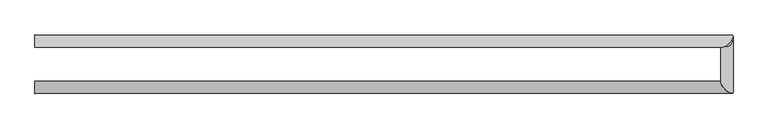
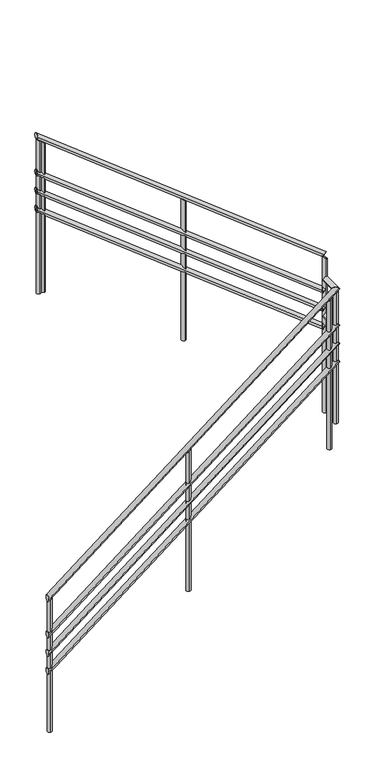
"""IFC4 building model written with IfcOpenShell, lengths in millimetres: railing geometry, r 1100mm 丸パイプ."""

from ifc_helpers import new_model, si_unit, frame, origin, place, context, project, spatial, circle_curve, ellipse_curve, source, transform, mapped, element, save
from ifc_brep_helpers import plane_surface, cylinder_surface, advanced_brep


def railing_baf35b28(model_context):
    return source(origin(), model_context, "Body", "AdvancedBrep", [
        advanced_brep(
        [(-1795.9784025, 14829.6868987, 1982.6086957), (-1795.9784025, 14869.6868987, 1982.6086957), (469.7716975, 14829.6868987, 3755.8044261), (438.2714975, 14869.6868987, 3731.1520956)],
        [
            (0, 1, ellipse_curve(frame((-1795.9784025, 14849.6868987, 1982.6086957), z_axis=(-1.0, 0.0, 0.0), x_axis=(0.0, 0.0, -1.0)), 25.3966641, 20.0)),
            (1, 0, ellipse_curve(frame((-1795.9784025, 14849.6868987, 1982.6086957), z_axis=(-1.0, 0.0, 0.0), x_axis=(0.0, 0.0, -1.0)), 25.3966641, 20.0)),
            (2, 3, ellipse_curve(frame((454.0215975, 14849.6868987, 3743.4782609), z_axis=(0.5568501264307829, 0.7071067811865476, 0.43579575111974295), x_axis=(-0.556850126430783, 0.7071067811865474, -0.4357957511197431)), 28.2842712, 20.0)),
            (3, 2, ellipse_curve(frame((454.0215975, 14849.6868987, 3743.4782609), z_axis=(0.5568501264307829, 0.7071067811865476, 0.43579575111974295), x_axis=(-0.556850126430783, 0.7071067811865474, -0.4357957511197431)), 28.2842712, 20.0)),
            (0, 2),
            (3, 1),
        ],
        [
            plane_surface(frame((-1795.9784025, 14849.6868987, 1982.6086957), z_axis=(-1.0, 0.0, 0.0), x_axis=(0.0, 1.0, 0.0))),
            plane_surface(frame((454.0215975, 14849.6868987, 3743.4782609), z_axis=(0.556850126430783, 0.7071067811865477, 0.43579575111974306), x_axis=(0.8306129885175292, -0.4740504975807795, -0.29216123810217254))),
            cylinder_surface(frame((-1795.9784025, 14849.6868987, 1982.6086957), z_axis=(-0.787505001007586, 0.0, -0.6163082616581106), x_axis=(0.0, 1.0, 0.0)), 20.0),
        ],
        [
            (0, [[1, 2]]),
            (1, [[3, 4]]),
            (2, [[-1, 5, -4, 6]]),
            (2, [[-2, -6, -3, -5]]),
        ],
    ),
        advanced_brep(
        [(474.0215975, 14833.9367987, 3743.4782609), (434.0215975, 14865.4369987, 3743.4782609), (474.0215975, 15015.4369987, 3743.4782609), (434.0215975, 14983.9367987, 3743.4782609)],
        [
            (0, 1, ellipse_curve(frame((454.0215975, 14849.6868987, 3743.4782609), z_axis=(-0.5568501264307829, -0.7071067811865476, -0.43579575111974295), x_axis=(0.556850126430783, -0.7071067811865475, 0.43579575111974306)), 28.2842712, 20.0)),
            (1, 0, ellipse_curve(frame((454.0215975, 14849.6868987, 3743.4782609), z_axis=(-0.5568501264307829, -0.7071067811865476, -0.43579575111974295), x_axis=(0.556850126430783, -0.7071067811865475, 0.43579575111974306)), 28.2842712, 20.0)),
            (2, 3, ellipse_curve(frame((454.0215975, 14999.6868987, 3743.4782609), z_axis=(-0.5568501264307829, 0.7071067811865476, 0.4357957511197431), x_axis=(-0.556850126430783, -0.7071067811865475, 0.43579575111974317)), 28.2842712, 20.0)),
            (3, 2, ellipse_curve(frame((454.0215975, 14999.6868987, 3743.4782609), z_axis=(-0.5568501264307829, 0.7071067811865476, 0.4357957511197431), x_axis=(-0.556850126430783, -0.7071067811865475, 0.43579575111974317)), 28.2842712, 20.0)),
            (0, 2),
            (3, 1),
        ],
        [
            plane_surface(frame((454.0215975, 14849.6868987, 3743.4782609), z_axis=(-0.556850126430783, -0.7071067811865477, -0.43579575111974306), x_axis=(0.8306129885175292, -0.4740504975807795, -0.29216123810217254))),
            plane_surface(frame((454.0215975, 14999.6868987, 3743.4782609), z_axis=(-0.5568501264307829, 0.7071067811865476, 0.4357957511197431), x_axis=(0.8306129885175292, 0.4740504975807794, 0.29216123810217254))),
            cylinder_surface(frame((454.0215975, 14849.6868987, 3743.4782609), z_axis=(0.0, -1.0, 0.0), x_axis=(-1.0, 0.0, 0.0)), 20.0),
        ],
        [
            (0, [[1, 2]]),
            (1, [[3, 4]]),
            (2, [[-1, 5, -4, 6]]),
            (2, [[-2, -6, -3, -5]]),
        ],
    ),
        advanced_brep(
        [(469.7716975, 15019.6868987, 3926.8042695), (438.2714975, 14979.6868987, 3951.4566), (-1795.9784025, 15019.6868987, 5700.0), (-1795.9784025, 14979.6868987, 5700.0)],
        [
            (0, 1, ellipse_curve(frame((454.0215975, 14999.6868987, 3939.1304348), z_axis=(0.5568501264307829, -0.7071067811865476, -0.4357957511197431), x_axis=(0.5568501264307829, 0.7071067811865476, -0.4357957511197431)), 28.2842712, 20.0)),
            (1, 0, ellipse_curve(frame((454.0215975, 14999.6868987, 3939.1304348), z_axis=(0.5568501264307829, -0.7071067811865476, -0.4357957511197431), x_axis=(0.5568501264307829, 0.7071067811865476, -0.4357957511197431)), 28.2842712, 20.0)),
            (2, 3, ellipse_curve(frame((-1795.9784025, 14999.6868987, 5700.0), z_axis=(-1.0, 0.0, 0.0), x_axis=(0.0, 0.0, -1.0)), 25.3966641, 20.0)),
            (3, 2, ellipse_curve(frame((-1795.9784025, 14999.6868987, 5700.0), z_axis=(-1.0, 0.0, 0.0), x_axis=(0.0, 0.0, -1.0)), 25.3966641, 20.0)),
            (0, 2),
            (3, 1),
        ],
        [
            plane_surface(frame((454.0215975, 14999.6868987, 3939.1304348), z_axis=(0.5568501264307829, -0.7071067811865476, -0.4357957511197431), x_axis=(0.8306129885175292, 0.4740504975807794, 0.29216123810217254))),
            plane_surface(frame((-1795.9784025, 14999.6868987, 5700.0), z_axis=(-1.0, 0.0, 0.0), x_axis=(0.0, -1.0, 0.0))),
            cylinder_surface(frame((454.0215975, 14999.6868987, 3939.1304348), z_axis=(0.7875050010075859, 0.0, -0.6163082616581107), x_axis=(0.0, -1.0, 0.0)), 20.0),
        ],
        [
            (0, [[1, 2]]),
            (1, [[3, 4]]),
            (2, [[-1, 5, -4, 6]]),
            (2, [[-2, -6, -3, -5]]),
        ],
    ),
        advanced_brep(
        [(-1795.9784025, 14829.6868987, 1682.6086957), (-1795.9784025, 14869.6868987, 1682.6086957), (469.7716975, 14829.6868987, 3455.8044261), (438.2714975, 14869.6868987, 3431.1520956)],
        [
            (0, 1, ellipse_curve(frame((-1795.9784025, 14849.6868987, 1682.6086957), z_axis=(-1.0, 0.0, 0.0), x_axis=(0.0, 0.0, -1.0)), 25.3966641, 20.0)),
            (1, 0, ellipse_curve(frame((-1795.9784025, 14849.6868987, 1682.6086957), z_axis=(-1.0, 0.0, 0.0), x_axis=(0.0, 0.0, -1.0)), 25.3966641, 20.0)),
            (2, 3, ellipse_curve(frame((454.0215975, 14849.6868987, 3443.4782609), z_axis=(0.5568501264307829, 0.7071067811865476, 0.43579575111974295), x_axis=(-0.556850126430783, 0.7071067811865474, -0.4357957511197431)), 28.2842712, 20.0)),
            (3, 2, ellipse_curve(frame((454.0215975, 14849.6868987, 3443.4782609), z_axis=(0.5568501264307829, 0.7071067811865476, 0.43579575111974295), x_axis=(-0.556850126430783, 0.7071067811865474, -0.4357957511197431)), 28.2842712, 20.0)),
            (0, 2),
            (3, 1),
        ],
        [
            plane_surface(frame((-1795.9784025, 14849.6868987, 1682.6086957), z_axis=(-1.0, 0.0, 0.0), x_axis=(0.0, 1.0, 0.0))),
            plane_surface(frame((454.0215975, 14849.6868987, 3443.4782609), z_axis=(0.556850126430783, 0.7071067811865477, 0.43579575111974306), x_axis=(0.8306129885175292, -0.4740504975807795, -0.29216123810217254))),
            cylinder_surface(frame((-1795.9784025, 14849.6868987, 1682.6086957), z_axis=(-0.787505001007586, 0.0, -0.6163082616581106), x_axis=(0.0, 1.0, 0.0)), 20.0),
        ],
        [
            (0, [[1, 2]]),
            (1, [[3, 4]]),
            (2, [[-1, 5, -4, 6]]),
            (2, [[-2, -6, -3, -5]]),
        ],
    ),
        advanced_brep(
        [(474.0215975, 14833.9367987, 3443.4782609), (434.0215975, 14865.4369987, 3443.4782609), (474.0215975, 15015.4369987, 3443.4782609), (434.0215975, 14983.9367987, 3443.4782609)],
        [
            (0, 1, ellipse_curve(frame((454.0215975, 14849.6868987, 3443.4782609), z_axis=(-0.5568501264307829, -0.7071067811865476, -0.43579575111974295), x_axis=(0.556850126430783, -0.7071067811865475, 0.43579575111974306)), 28.2842712, 20.0)),
            (1, 0, ellipse_curve(frame((454.0215975, 14849.6868987, 3443.4782609), z_axis=(-0.5568501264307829, -0.7071067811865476, -0.43579575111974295), x_axis=(0.556850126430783, -0.7071067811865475, 0.43579575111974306)), 28.2842712, 20.0)),
            (2, 3, ellipse_curve(frame((454.0215975, 14999.6868987, 3443.4782609), z_axis=(-0.5568501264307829, 0.7071067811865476, 0.4357957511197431), x_axis=(-0.556850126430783, -0.7071067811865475, 0.43579575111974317)), 28.2842712, 20.0)),
            (3, 2, ellipse_curve(frame((454.0215975, 14999.6868987, 3443.4782609), z_axis=(-0.5568501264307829, 0.7071067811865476, 0.4357957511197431), x_axis=(-0.556850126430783, -0.7071067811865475, 0.43579575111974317)), 28.2842712, 20.0)),
            (0, 2),
            (3, 1),
        ],
        [
            plane_surface(frame((454.0215975, 14849.6868987, 3443.4782609), z_axis=(-0.556850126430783, -0.7071067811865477, -0.43579575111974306), x_axis=(0.8306129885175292, -0.4740504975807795, -0.29216123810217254))),
            plane_surface(frame((454.0215975, 14999.6868987, 3443.4782609), z_axis=(-0.5568501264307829, 0.7071067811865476, 0.4357957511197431), x_axis=(0.8306129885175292, 0.4740504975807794, 0.29216123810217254))),
            cylinder_surface(frame((454.0215975, 14849.6868987, 3443.4782609), z_axis=(0.0, -1.0, 0.0), x_axis=(-1.0, 0.0, 0.0)), 20.0),
        ],
        [
            (0, [[1, 2]]),
            (1, [[3, 4]]),
            (2, [[-1, 5, -4, 6]]),
            (2, [[-2, -6, -3, -5]]),
        ],
    ),
        advanced_brep(
        [(469.7716975, 15019.6868987, 3626.8042695), (438.2714975, 14979.6868987, 3651.4566), (-1795.9784025, 15019.6868987, 5400.0), (-1795.9784025, 14979.6868987, 5400.0)],
        [
            (0, 1, ellipse_curve(frame((454.0215975, 14999.6868987, 3639.1304348), z_axis=(0.5568501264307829, -0.7071067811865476, -0.4357957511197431), x_axis=(0.5568501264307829, 0.7071067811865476, -0.4357957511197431)), 28.2842712, 20.0)),
            (1, 0, ellipse_curve(frame((454.0215975, 14999.6868987, 3639.1304348), z_axis=(0.5568501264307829, -0.7071067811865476, -0.4357957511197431), x_axis=(0.5568501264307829, 0.7071067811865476, -0.4357957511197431)), 28.2842712, 20.0)),
            (2, 3, ellipse_curve(frame((-1795.9784025, 14999.6868987, 5400.0), z_axis=(-1.0, 0.0, 0.0), x_axis=(0.0, 0.0, -1.0)), 25.3966641, 20.0)),
            (3, 2, ellipse_curve(frame((-1795.9784025, 14999.6868987, 5400.0), z_axis=(-1.0, 0.0, 0.0), x_axis=(0.0, 0.0, -1.0)), 25.3966641, 20.0)),
            (0, 2),
            (3, 1),
        ],
        [
            plane_surface(frame((454.0215975, 14999.6868987, 3639.1304348), z_axis=(0.5568501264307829, -0.7071067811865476, -0.4357957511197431), x_axis=(0.8306129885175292, 0.4740504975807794, 0.29216123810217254))),
            plane_surface(frame((-1795.9784025, 14999.6868987, 5400.0), z_axis=(-1.0, 0.0, 0.0), x_axis=(0.0, -1.0, 0.0))),
            cylinder_surface(frame((454.0215975, 14999.6868987, 3639.1304348), z_axis=(0.7875050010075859, 0.0, -0.6163082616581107), x_axis=(0.0, -1.0, 0.0)), 20.0),
        ],
        [
            (0, [[1, 2]]),
            (1, [[3, 4]]),
            (2, [[-1, 5, -4, 6]]),
            (2, [[-2, -6, -3, -5]]),
        ],
    ),
        advanced_brep(
        [(-1795.9784025, 14829.6868987, 1532.6086957), (-1795.9784025, 14869.6868987, 1532.6086957), (469.7716975, 14829.6868987, 3305.8044261), (438.2714975, 14869.6868987, 3281.1520956)],
        [
            (0, 1, ellipse_curve(frame((-1795.9784025, 14849.6868987, 1532.6086957), z_axis=(-1.0, 0.0, 0.0), x_axis=(0.0, 0.0, -1.0)), 25.3966641, 20.0)),
            (1, 0, ellipse_curve(frame((-1795.9784025, 14849.6868987, 1532.6086957), z_axis=(-1.0, 0.0, 0.0), x_axis=(0.0, 0.0, -1.0)), 25.3966641, 20.0)),
            (2, 3, ellipse_curve(frame((454.0215975, 14849.6868987, 3293.4782609), z_axis=(0.5568501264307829, 0.7071067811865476, 0.43579575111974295), x_axis=(-0.556850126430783, 0.7071067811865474, -0.4357957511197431)), 28.2842712, 20.0)),
            (3, 2, ellipse_curve(frame((454.0215975, 14849.6868987, 3293.4782609), z_axis=(0.5568501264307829, 0.7071067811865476, 0.43579575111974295), x_axis=(-0.556850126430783, 0.7071067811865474, -0.4357957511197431)), 28.2842712, 20.0)),
            (0, 2),
            (3, 1),
        ],
        [
            plane_surface(frame((-1795.9784025, 14849.6868987, 1532.6086957), z_axis=(-1.0, 0.0, 0.0), x_axis=(0.0, 1.0, 0.0))),
            plane_surface(frame((454.0215975, 14849.6868987, 3293.4782609), z_axis=(0.556850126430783, 0.7071067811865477, 0.43579575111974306), x_axis=(0.8306129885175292, -0.4740504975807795, -0.29216123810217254))),
            cylinder_surface(frame((-1795.9784025, 14849.6868987, 1532.6086957), z_axis=(-0.787505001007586, 0.0, -0.6163082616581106), x_axis=(0.0, 1.0, 0.0)), 20.0),
        ],
        [
            (0, [[1, 2]]),
            (1, [[3, 4]]),
            (2, [[-1, 5, -4, 6]]),
            (2, [[-2, -6, -3, -5]]),
        ],
    ),
        advanced_brep(
        [(474.0215975, 14833.9367987, 3293.4782609), (434.0215975, 14865.4369987, 3293.4782609), (474.0215975, 15015.4369987, 3293.4782609), (434.0215975, 14983.9367987, 3293.4782609)],
        [
            (0, 1, ellipse_curve(frame((454.0215975, 14849.6868987, 3293.4782609), z_axis=(-0.5568501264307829, -0.7071067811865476, -0.43579575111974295), x_axis=(0.556850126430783, -0.7071067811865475, 0.43579575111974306)), 28.2842712, 20.0)),
            (1, 0, ellipse_curve(frame((454.0215975, 14849.6868987, 3293.4782609), z_axis=(-0.5568501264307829, -0.7071067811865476, -0.43579575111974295), x_axis=(0.556850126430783, -0.7071067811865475, 0.43579575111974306)), 28.2842712, 20.0)),
            (2, 3, ellipse_curve(frame((454.0215975, 14999.6868987, 3293.4782609), z_axis=(-0.5568501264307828, 0.7071067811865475, 0.43579575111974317), x_axis=(-0.5568501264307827, -0.7071067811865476, 0.4357957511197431)), 28.2842712, 20.0)),
            (3, 2, ellipse_curve(frame((454.0215975, 14999.6868987, 3293.4782609), z_axis=(-0.5568501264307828, 0.7071067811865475, 0.43579575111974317), x_axis=(-0.5568501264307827, -0.7071067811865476, 0.4357957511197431)), 28.2842712, 20.0)),
            (0, 2),
            (3, 1),
        ],
        [
            plane_surface(frame((454.0215975, 14849.6868987, 3293.4782609), z_axis=(-0.556850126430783, -0.7071067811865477, -0.43579575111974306), x_axis=(0.8306129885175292, -0.4740504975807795, -0.29216123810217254))),
            plane_surface(frame((454.0215975, 14999.6868987, 3293.4782609), z_axis=(-0.5568501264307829, 0.7071067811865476, 0.4357957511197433), x_axis=(0.8306129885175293, 0.47405049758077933, 0.2921612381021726))),
            cylinder_surface(frame((454.0215975, 14849.6868987, 3293.4782609), z_axis=(0.0, -1.0, 0.0), x_axis=(-1.0, 0.0, 0.0)), 20.0),
        ],
        [
            (0, [[1, 2]]),
            (1, [[3, 4]]),
            (2, [[-1, 5, -4, 6]]),
            (2, [[-2, -6, -3, -5]]),
        ],
    ),
        advanced_brep(
        [(469.7716975, 15019.6868987, 3476.8042695), (438.2714975, 14979.6868987, 3501.4566), (-1795.9784025, 15019.6868987, 5250.0), (-1795.9784025, 14979.6868987, 5250.0)],
        [
            (0, 1, ellipse_curve(frame((454.0215975, 14999.6868987, 3489.1304348), z_axis=(0.5568501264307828, -0.7071067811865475, -0.43579575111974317), x_axis=(0.556850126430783, 0.7071067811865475, -0.43579575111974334)), 28.2842712, 20.0)),
            (1, 0, ellipse_curve(frame((454.0215975, 14999.6868987, 3489.1304348), z_axis=(0.5568501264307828, -0.7071067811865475, -0.43579575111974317), x_axis=(0.556850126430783, 0.7071067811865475, -0.43579575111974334)), 28.2842712, 20.0)),
            (2, 3, ellipse_curve(frame((-1795.9784025, 14999.6868987, 5250.0), z_axis=(-1.0, 0.0, 0.0), x_axis=(0.0, 0.0, -1.0)), 25.3966641, 20.0)),
            (3, 2, ellipse_curve(frame((-1795.9784025, 14999.6868987, 5250.0), z_axis=(-1.0, 0.0, 0.0), x_axis=(0.0, 0.0, -1.0)), 25.3966641, 20.0)),
            (0, 2),
            (3, 1),
        ],
        [
            plane_surface(frame((454.0215975, 14999.6868987, 3489.1304348), z_axis=(0.5568501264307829, -0.7071067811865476, -0.4357957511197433), x_axis=(0.8306129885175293, 0.47405049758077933, 0.2921612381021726))),
            plane_surface(frame((-1795.9784025, 14999.6868987, 5250.0), z_axis=(-1.0, 0.0, 0.0), x_axis=(0.0, -1.0, 0.0))),
            cylinder_surface(frame((454.0215975, 14999.6868987, 3489.1304348), z_axis=(0.7875050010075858, 0.0, -0.6163082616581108), x_axis=(0.0, -1.0, 0.0)), 20.0),
        ],
        [
            (0, [[1, 2]]),
            (1, [[3, 4]]),
            (2, [[-1, 5, -4, 6]]),
            (2, [[-2, -6, -3, -5]]),
        ],
    ),
        advanced_brep(
        [(-1795.9784025, 14829.6868987, 1382.6086957), (-1795.9784025, 14869.6868987, 1382.6086957), (469.7716975, 14829.6868987, 3155.8044261), (438.2714975, 14869.6868987, 3131.1520956)],
        [
            (0, 1, ellipse_curve(frame((-1795.9784025, 14849.6868987, 1382.6086957), z_axis=(-1.0, 0.0, 0.0), x_axis=(0.0, 0.0, -1.0)), 25.3966641, 20.0)),
            (1, 0, ellipse_curve(frame((-1795.9784025, 14849.6868987, 1382.6086957), z_axis=(-1.0, 0.0, 0.0), x_axis=(0.0, 0.0, -1.0)), 25.3966641, 20.0)),
            (2, 3, ellipse_curve(frame((454.0215975, 14849.6868987, 3143.4782609), z_axis=(0.5568501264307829, 0.7071067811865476, 0.43579575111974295), x_axis=(-0.556850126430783, 0.7071067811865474, -0.4357957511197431)), 28.2842712, 20.0)),
            (3, 2, ellipse_curve(frame((454.0215975, 14849.6868987, 3143.4782609), z_axis=(0.5568501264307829, 0.7071067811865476, 0.43579575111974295), x_axis=(-0.556850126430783, 0.7071067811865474, -0.4357957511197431)), 28.2842712, 20.0)),
            (0, 2),
            (3, 1),
        ],
        [
            plane_surface(frame((-1795.9784025, 14849.6868987, 1382.6086957), z_axis=(-1.0, 0.0, 0.0), x_axis=(0.0, 1.0, 0.0))),
            plane_surface(frame((454.0215975, 14849.6868987, 3143.4782609), z_axis=(0.556850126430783, 0.7071067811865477, 0.43579575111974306), x_axis=(0.8306129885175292, -0.4740504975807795, -0.29216123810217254))),
            cylinder_surface(frame((-1795.9784025, 14849.6868987, 1382.6086957), z_axis=(-0.787505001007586, 0.0, -0.6163082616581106), x_axis=(0.0, 1.0, 0.0)), 20.0),
        ],
        [
            (0, [[1, 2]]),
            (1, [[3, 4]]),
            (2, [[-1, 5, -4, 6]]),
            (2, [[-2, -6, -3, -5]]),
        ],
    ),
        advanced_brep(
        [(474.0215975, 14833.9367987, 3143.4782609), (434.0215975, 14865.4369987, 3143.4782609), (474.0215975, 15015.4369987, 3143.4782609), (434.0215975, 14983.9367987, 3143.4782609)],
        [
            (0, 1, ellipse_curve(frame((454.0215975, 14849.6868987, 3143.4782609), z_axis=(-0.5568501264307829, -0.7071067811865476, -0.43579575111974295), x_axis=(0.556850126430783, -0.7071067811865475, 0.43579575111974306)), 28.2842712, 20.0)),
            (1, 0, ellipse_curve(frame((454.0215975, 14849.6868987, 3143.4782609), z_axis=(-0.5568501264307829, -0.7071067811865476, -0.43579575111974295), x_axis=(0.556850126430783, -0.7071067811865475, 0.43579575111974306)), 28.2842712, 20.0)),
            (2, 3, ellipse_curve(frame((454.0215975, 14999.6868987, 3143.4782609), z_axis=(-0.5568501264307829, 0.7071067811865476, 0.4357957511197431), x_axis=(-0.556850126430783, -0.7071067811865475, 0.43579575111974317)), 28.2842712, 20.0)),
            (3, 2, ellipse_curve(frame((454.0215975, 14999.6868987, 3143.4782609), z_axis=(-0.5568501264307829, 0.7071067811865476, 0.4357957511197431), x_axis=(-0.556850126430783, -0.7071067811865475, 0.43579575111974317)), 28.2842712, 20.0)),
            (0, 2),
            (3, 1),
        ],
        [
            plane_surface(frame((454.0215975, 14849.6868987, 3143.4782609), z_axis=(-0.556850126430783, -0.7071067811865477, -0.43579575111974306), x_axis=(0.8306129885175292, -0.4740504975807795, -0.29216123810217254))),
            plane_surface(frame((454.0215975, 14999.6868987, 3143.4782609), z_axis=(-0.5568501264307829, 0.7071067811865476, 0.4357957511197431), x_axis=(0.8306129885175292, 0.4740504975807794, 0.29216123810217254))),
            cylinder_surface(frame((454.0215975, 14849.6868987, 3143.4782609), z_axis=(0.0, -1.0, 0.0), x_axis=(-1.0, 0.0, 0.0)), 20.0),
        ],
        [
            (0, [[1, 2]]),
            (1, [[3, 4]]),
            (2, [[-1, 5, -4, 6]]),
            (2, [[-2, -6, -3, -5]]),
        ],
    ),
        advanced_brep(
        [(469.7716975, 15019.6868987, 3326.8042695), (438.2714975, 14979.6868987, 3351.4566), (-1795.9784025, 15019.6868987, 5100.0), (-1795.9784025, 14979.6868987, 5100.0)],
        [
            (0, 1, ellipse_curve(frame((454.0215975, 14999.6868987, 3339.1304348), z_axis=(0.5568501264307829, -0.7071067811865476, -0.4357957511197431), x_axis=(0.5568501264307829, 0.7071067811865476, -0.4357957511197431)), 28.2842712, 20.0)),
            (1, 0, ellipse_curve(frame((454.0215975, 14999.6868987, 3339.1304348), z_axis=(0.5568501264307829, -0.7071067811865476, -0.4357957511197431), x_axis=(0.5568501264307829, 0.7071067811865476, -0.4357957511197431)), 28.2842712, 20.0)),
            (2, 3, ellipse_curve(frame((-1795.9784025, 14999.6868987, 5100.0), z_axis=(-1.0, 0.0, 0.0), x_axis=(0.0, 0.0, -1.0)), 25.3966641, 20.0)),
            (3, 2, ellipse_curve(frame((-1795.9784025, 14999.6868987, 5100.0), z_axis=(-1.0, 0.0, 0.0), x_axis=(0.0, 0.0, -1.0)), 25.3966641, 20.0)),
            (0, 2),
            (3, 1),
        ],
        [
            plane_surface(frame((454.0215975, 14999.6868987, 3339.1304348), z_axis=(0.5568501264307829, -0.7071067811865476, -0.4357957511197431), x_axis=(0.8306129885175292, 0.4740504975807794, 0.29216123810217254))),
            plane_surface(frame((-1795.9784025, 14999.6868987, 5100.0), z_axis=(-1.0, 0.0, 0.0), x_axis=(0.0, -1.0, 0.0))),
            cylinder_surface(frame((454.0215975, 14999.6868987, 3339.1304348), z_axis=(0.7875050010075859, 0.0, -0.6163082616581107), x_axis=(0.0, -1.0, 0.0)), 20.0),
        ],
        [
            (0, [[1, 2]]),
            (1, [[3, 4]]),
            (2, [[-1, 5, -4, 6]]),
            (2, [[-2, -6, -3, -5]]),
        ],
    ),
        advanced_brep(
        [(-1745.9784025, 14982.6868987, 5635.4729011), (-1745.9784025, 15016.6868987, 5635.4729011), (-1745.9784025, 15016.6868987, 4404.3478261), (-1745.9784025, 14982.6868987, 4404.3478261)],
        [
            (0, 1, ellipse_curve(frame((-1745.9784025, 14999.6868987, 5635.4729011), z_axis=(-0.6163082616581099, 0.0, -0.7875050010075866), x_axis=(-0.7875050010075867, 0.0, 0.6163082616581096)), 21.5871645, 17.0)),
            (1, 2),
            (2, 3, circle_curve(frame((-1745.9784025, 14999.6868987, 4404.3478261), z_axis=(0.0, 0.0, 1.0), x_axis=(0.0, 1.0, 0.0)), 17.0)),
            (3, 0),
            (3, 2, circle_curve(frame((-1745.9784025, 14999.6868987, 4404.3478261), z_axis=(0.0, 0.0, 1.0), x_axis=(0.0, 1.0, 0.0)), 17.0)),
            (1, 0, ellipse_curve(frame((-1745.9784025, 14999.6868987, 5635.4729011), z_axis=(-0.6163082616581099, 0.0, -0.7875050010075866), x_axis=(-0.7875050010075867, 0.0, 0.6163082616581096)), 21.5871645, 17.0)),
        ],
        [
            cylinder_surface(frame((-1745.9784025, 14999.6868987, 4304.3478261), z_axis=(0.0, 0.0, 1.0), x_axis=(0.0, 1.0, 0.0)), 17.0),
            plane_surface(frame((-1779.9784025, 15033.6868987, 5662.0815968), z_axis=(0.6163082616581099, 0.0, 0.7875050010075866), x_axis=(0.0, -1.0, 0.0))),
            plane_surface(frame((-1711.9784025, 15033.6868987, 4404.3478261), z_axis=(0.0, 0.0, -1.0), x_axis=(0.0, -1.0, 0.0))),
        ],
        [
            (0, [[1, 2, 3, 4]]),
            (0, [[5, -2, 6, -4]]),
            (1, [[-6, -1]]),
            (2, [[-5, -3]]),
        ],
    ),
        advanced_brep(
        [(-645.9784025, 14982.6868987, 4774.6033359), (-645.9784025, 15016.6868987, 4774.6033359), (-645.9784025, 15016.6868987, 3621.7391304), (-645.9784025, 14982.6868987, 3621.7391304)],
        [
            (0, 1, ellipse_curve(frame((-645.9784025, 14999.6868987, 4774.6033359), z_axis=(-0.6163082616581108, 0.0, -0.7875050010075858), x_axis=(-0.7875050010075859, 0.0, 0.6163082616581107)), 21.5871645, 17.0)),
            (1, 2),
            (2, 3, circle_curve(frame((-645.9784025, 14999.6868987, 3621.7391304), z_axis=(0.0, 0.0, 1.0), x_axis=(0.0, 1.0, 0.0)), 17.0)),
            (3, 0),
            (3, 2, circle_curve(frame((-645.9784025, 14999.6868987, 3621.7391304), z_axis=(0.0, 0.0, 1.0), x_axis=(0.0, 1.0, 0.0)), 17.0)),
            (1, 0, ellipse_curve(frame((-645.9784025, 14999.6868987, 4774.6033359), z_axis=(-0.6163082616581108, 0.0, -0.7875050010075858), x_axis=(-0.7875050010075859, 0.0, 0.6163082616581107)), 21.5871645, 17.0)),
        ],
        [
            cylinder_surface(frame((-645.9784025, 14999.6868987, 3521.7391304), z_axis=(0.0, 0.0, 1.0), x_axis=(0.0, 1.0, 0.0)), 17.0),
            plane_surface(frame((-679.9784025, 15033.6868987, 4801.2120315), z_axis=(0.6163082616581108, 0.0, 0.7875050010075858), x_axis=(0.0, -1.0, 0.0))),
            plane_surface(frame((-611.9784025, 15033.6868987, 3621.7391304), z_axis=(0.0, 0.0, -1.0), x_axis=(0.0, -1.0, 0.0))),
        ],
        [
            (0, [[1, 2, 3, 4]]),
            (0, [[5, -2, 6, -4]]),
            (1, [[-6, -1]]),
            (2, [[-5, -3]]),
        ],
    ),
        advanced_brep(
        [(404.0215975, 14866.6868987, 3678.951162), (404.0215975, 14832.6868987, 3678.951162), (404.0215975, 14832.6868987, 2447.826087), (404.0215975, 14866.6868987, 2447.826087)],
        [
            (0, 1, ellipse_curve(frame((404.0215975, 14849.6868987, 3678.951162), z_axis=(0.6163082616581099, 0.0, -0.7875050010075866), x_axis=(0.7875050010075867, 0.0, 0.6163082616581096)), 21.5871645, 17.0)),
            (1, 2),
            (2, 3, circle_curve(frame((404.0215975, 14849.6868987, 2447.826087), z_axis=(0.0, 0.0, 1.0), x_axis=(0.0, -1.0, 0.0)), 17.0)),
            (3, 0),
            (3, 2, circle_curve(frame((404.0215975, 14849.6868987, 2447.826087), z_axis=(0.0, 0.0, 1.0), x_axis=(0.0, -1.0, 0.0)), 17.0)),
            (1, 0, ellipse_curve(frame((404.0215975, 14849.6868987, 3678.951162), z_axis=(0.6163082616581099, 0.0, -0.7875050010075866), x_axis=(0.7875050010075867, 0.0, 0.6163082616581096)), 21.5871645, 17.0)),
        ],
        [
            cylinder_surface(frame((404.0215975, 14849.6868987, 2347.826087), z_axis=(0.0, 0.0, 1.0), x_axis=(0.0, -1.0, 0.0)), 17.0),
            plane_surface(frame((438.0215975, 14815.6868987, 3705.5598576), z_axis=(-0.6163082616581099, 0.0, 0.7875050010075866), x_axis=(0.0, 1.0, 0.0))),
            plane_surface(frame((370.0215975, 14815.6868987, 2447.826087), z_axis=(0.0, 0.0, -1.0), x_axis=(0.0, 1.0, 0.0))),
        ],
        [
            (0, [[1, 2, 3, 4]]),
            (0, [[5, -2, 6, -4]]),
            (1, [[-6, -1]]),
            (2, [[-5, -3]]),
        ],
    ),
        advanced_brep(
        [(-695.9784025, 14866.6868987, 2818.0815968), (-695.9784025, 14832.6868987, 2818.0815968), (-695.9784025, 14832.6868987, 1665.2173913), (-695.9784025, 14866.6868987, 1665.2173913)],
        [
            (0, 1, ellipse_curve(frame((-695.9784025, 14849.6868987, 2818.0815968), z_axis=(0.6163082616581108, 0.0, -0.7875050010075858), x_axis=(0.7875050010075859, 0.0, 0.6163082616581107)), 21.5871645, 17.0)),
            (1, 2),
            (2, 3, circle_curve(frame((-695.9784025, 14849.6868987, 1665.2173913), z_axis=(0.0, 0.0, 1.0), x_axis=(0.0, -1.0, 0.0)), 17.0)),
            (3, 0),
            (3, 2, circle_curve(frame((-695.9784025, 14849.6868987, 1665.2173913), z_axis=(0.0, 0.0, 1.0), x_axis=(0.0, -1.0, 0.0)), 17.0)),
            (1, 0, ellipse_curve(frame((-695.9784025, 14849.6868987, 2818.0815968), z_axis=(0.6163082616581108, 0.0, -0.7875050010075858), x_axis=(0.7875050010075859, 0.0, 0.6163082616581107)), 21.5871645, 17.0)),
        ],
        [
            cylinder_surface(frame((-695.9784025, 14849.6868987, 1565.2173913), z_axis=(0.0, 0.0, 1.0), x_axis=(0.0, -1.0, 0.0)), 17.0),
            plane_surface(frame((-661.9784025, 14815.6868987, 2844.6902924), z_axis=(-0.6163082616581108, 0.0, 0.7875050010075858), x_axis=(0.0, 1.0, 0.0))),
            plane_surface(frame((-729.9784025, 14815.6868987, 1665.2173913), z_axis=(0.0, 0.0, -1.0), x_axis=(0.0, 1.0, 0.0))),
        ],
        [
            (0, [[1, 2, 3, 4]]),
            (0, [[5, -2, 6, -4]]),
            (1, [[-6, -1]]),
            (2, [[-5, -3]]),
        ],
    ),
        advanced_brep(
        [(454.0215975, 14982.6868987, 3913.7337707), (454.0215975, 15016.6868987, 3913.7337707), (454.0215975, 15016.6868987, 2643.4782609), (454.0215975, 14982.6868987, 2643.4782609)],
        [
            (0, 1, ellipse_curve(frame((454.0215975, 14999.6868987, 3913.7337707), z_axis=(-0.6163082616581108, 0.0, -0.7875050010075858), x_axis=(-0.7875050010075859, 0.0, 0.6163082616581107)), 21.5871645, 17.0)),
            (1, 2),
            (2, 3, circle_curve(frame((454.0215975, 14999.6868987, 2643.4782609), z_axis=(0.0, 0.0, 1.0), x_axis=(0.0, 1.0, 0.0)), 17.0)),
            (3, 0),
            (3, 2, circle_curve(frame((454.0215975, 14999.6868987, 2643.4782609), z_axis=(0.0, 0.0, 1.0), x_axis=(0.0, 1.0, 0.0)), 17.0)),
            (1, 0, ellipse_curve(frame((454.0215975, 14999.6868987, 3913.7337707), z_axis=(-0.6163082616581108, 0.0, -0.7875050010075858), x_axis=(-0.7875050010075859, 0.0, 0.6163082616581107)), 21.5871645, 17.0)),
        ],
        [
            cylinder_surface(frame((454.0215975, 14999.6868987, 2543.4782609), z_axis=(0.0, 0.0, 1.0), x_axis=(0.0, 1.0, 0.0)), 17.0),
            plane_surface(frame((420.0215975, 15033.6868987, 3940.3424663), z_axis=(0.6163082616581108, 0.0, 0.7875050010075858), x_axis=(0.0, -1.0, 0.0))),
            plane_surface(frame((488.0215975, 15033.6868987, 2643.4782609), z_axis=(0.0, 0.0, -1.0), x_axis=(0.0, -1.0, 0.0))),
        ],
        [
            (0, [[1, 2, 3, 4]]),
            (0, [[5, -2, 6, -4]]),
            (1, [[-6, -1]]),
            (2, [[-5, -3]]),
        ],
    ),
        advanced_brep(
        [(454.0215975, 14866.6868987, 3718.0815968), (454.0215975, 14832.6868987, 3718.0815968), (454.0215975, 14832.6868987, 2643.4782609), (454.0215975, 14866.6868987, 2643.4782609)],
        [
            (0, 1, ellipse_curve(frame((454.0215975, 14849.6868987, 3718.0815968), z_axis=(0.6163082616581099, 0.0, -0.7875050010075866), x_axis=(0.7875050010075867, 0.0, 0.6163082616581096)), 21.5871645, 17.0)),
            (1, 2),
            (2, 3, circle_curve(frame((454.0215975, 14849.6868987, 2643.4782609), z_axis=(0.0, 0.0, 1.0), x_axis=(0.0, -1.0, 0.0)), 17.0)),
            (3, 0),
            (3, 2, circle_curve(frame((454.0215975, 14849.6868987, 2643.4782609), z_axis=(0.0, 0.0, 1.0), x_axis=(0.0, -1.0, 0.0)), 17.0)),
            (1, 0, ellipse_curve(frame((454.0215975, 14849.6868987, 3718.0815968), z_axis=(0.6163082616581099, 0.0, -0.7875050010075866), x_axis=(0.7875050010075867, 0.0, 0.6163082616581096)), 21.5871645, 17.0)),
        ],
        [
            cylinder_surface(frame((454.0215975, 14849.6868987, 2543.4782609), z_axis=(0.0, 0.0, 1.0), x_axis=(0.0, -1.0, 0.0)), 17.0),
            plane_surface(frame((488.0215975, 14815.6868987, 3744.6902924), z_axis=(-0.6163082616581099, 0.0, 0.7875050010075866), x_axis=(0.0, 1.0, 0.0))),
            plane_surface(frame((420.0215975, 14815.6868987, 2643.4782609), z_axis=(0.0, 0.0, -1.0), x_axis=(0.0, 1.0, 0.0))),
        ],
        [
            (0, [[1, 2, 3, 4]]),
            (0, [[5, -2, 6, -4]]),
            (1, [[-6, -1]]),
            (2, [[-5, -3]]),
        ],
    ),
        advanced_brep(
        [(-1778.9784025, 14982.6868987, 5661.2989881), (-1778.9784025, 15016.6868987, 5661.2989881), (-1778.9784025, 15016.6868987, 4404.3478261), (-1778.9784025, 14982.6868987, 4404.3478261)],
        [
            (0, 1, ellipse_curve(frame((-1778.9784025, 14999.6868987, 5661.2989881), z_axis=(-0.6163082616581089, 0.0, -0.7875050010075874), x_axis=(-0.7875050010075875, 0.0, 0.6163082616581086)), 21.5871645, 17.0)),
            (1, 2),
            (2, 3, circle_curve(frame((-1778.9784025, 14999.6868987, 4404.3478261), z_axis=(0.0, 0.0, 1.0), x_axis=(0.0, 1.0, 0.0)), 17.0)),
            (3, 0),
            (3, 2, circle_curve(frame((-1778.9784025, 14999.6868987, 4404.3478261), z_axis=(0.0, 0.0, 1.0), x_axis=(0.0, 1.0, 0.0)), 17.0)),
            (1, 0, ellipse_curve(frame((-1778.9784025, 14999.6868987, 5661.2989881), z_axis=(-0.6163082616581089, 0.0, -0.7875050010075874), x_axis=(-0.7875050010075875, 0.0, 0.6163082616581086)), 21.5871645, 17.0)),
        ],
        [
            cylinder_surface(frame((-1778.9784025, 14999.6868987, 4304.3478261), z_axis=(0.0, 0.0, 1.0), x_axis=(0.0, 1.0, 0.0)), 17.0),
            plane_surface(frame((-1812.9784025, 15033.6868987, 5687.9076837), z_axis=(0.6163082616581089, 0.0, 0.7875050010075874), x_axis=(0.0, -1.0, 0.0))),
            plane_surface(frame((-1744.9784025, 15033.6868987, 4404.3478261), z_axis=(0.0, 0.0, -1.0), x_axis=(0.0, -1.0, 0.0))),
        ],
        [
            (0, [[1, 2, 3, 4]]),
            (0, [[5, -2, 6, -4]]),
            (1, [[-6, -1]]),
            (2, [[-5, -3]]),
        ],
    ),
        advanced_brep(
        [(-1778.9784025, 14866.6868987, 1970.5163794), (-1778.9784025, 14832.6868987, 1970.5163794), (-1778.9784025, 14832.6868987, 882.6086957), (-1778.9784025, 14866.6868987, 882.6086957)],
        [
            (0, 1, ellipse_curve(frame((-1778.9784025, 14849.6868987, 1970.5163794), z_axis=(0.6163082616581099, 0.0, -0.7875050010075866), x_axis=(0.7875050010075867, 0.0, 0.6163082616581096)), 21.5871645, 17.0)),
            (1, 2),
            (2, 3, circle_curve(frame((-1778.9784025, 14849.6868987, 882.6086957), z_axis=(0.0, 0.0, 1.0), x_axis=(0.0, -1.0, 0.0)), 17.0)),
            (3, 0),
            (3, 2, circle_curve(frame((-1778.9784025, 14849.6868987, 882.6086957), z_axis=(0.0, 0.0, 1.0), x_axis=(0.0, -1.0, 0.0)), 17.0)),
            (1, 0, ellipse_curve(frame((-1778.9784025, 14849.6868987, 1970.5163794), z_axis=(0.6163082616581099, 0.0, -0.7875050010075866), x_axis=(0.7875050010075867, 0.0, 0.6163082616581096)), 21.5871645, 17.0)),
        ],
        [
            cylinder_surface(frame((-1778.9784025, 14849.6868987, 782.6086957), z_axis=(0.0, 0.0, 1.0), x_axis=(0.0, -1.0, 0.0)), 17.0),
            plane_surface(frame((-1744.9784025, 14815.6868987, 1997.125075), z_axis=(-0.6163082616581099, 0.0, 0.7875050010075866), x_axis=(0.0, 1.0, 0.0))),
            plane_surface(frame((-1812.9784025, 14815.6868987, 882.6086957), z_axis=(0.0, 0.0, -1.0), x_axis=(0.0, 1.0, 0.0))),
        ],
        [
            (0, [[1, 2, 3, 4]]),
            (0, [[5, -2, 6, -4]]),
            (1, [[-6, -1]]),
            (2, [[-5, -3]]),
        ],
    ),
    ])


if __name__ == "__main__":
    model = new_model("IFC4")
    model_context = context("Model", 3, world=origin())
    ifc_project = project(units=[si_unit("LENGTHUNIT", "METRE", prefix="MILLI")], contexts=[model_context])
    site = spatial("IfcSite", under=ifc_project)
    building = spatial("IfcBuilding", under=site)
    placement = place(None, origin())
    railing_shape = railing_baf35b28(model_context)
    element("IfcRailing", 1, ObjectType="r 1100mm 丸パイプ", at=placement, inside=building, context=model_context, shape_type="MappedRepresentation", body=[
        mapped(railing_shape, transform((0.0, 0.0, 0.0), x_axis=(1.0, 0.0, 0.0), y_axis=(0.0, 1.0, 0.0), z_axis=(0.0, 0.0, 1.0))),
    ])
    save(model, "model.ifc")
